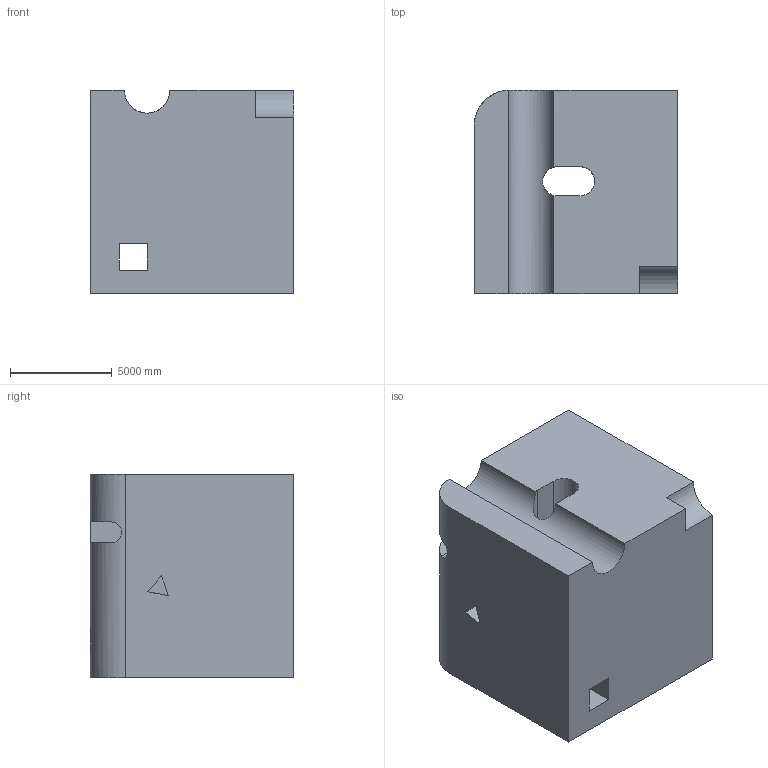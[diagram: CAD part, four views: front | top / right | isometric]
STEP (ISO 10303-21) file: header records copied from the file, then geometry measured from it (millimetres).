
FILE_DESCRIPTION (( 'STEP AP203' ), '1' );
FILE_NAME ('1849.STEP', '2022-08-19T13:30:56', ( 'user' ), ( '' ), 'SwSTEP 2.0', 'SolidWorks 2021', '' );
FILE_SCHEMA (( 'CONFIG_CONTROL_DESIGN' ));
Length unit declared in the file: centimetre
Products named in the file (1): 1849
Bounding box: 10000 x 10000 x 10000 mm (x, y, z)
Volume: 882204567216.3 mm3; surface area: 812949024.3 mm2
Topology: 1 solids, 1 shells, 42 faces, 120 edges, 80 vertices
Faces by surface type: plane 31, cylinder 11
Entity records: 1737 total; most frequent: CARTESIAN_POINT 539, ORIENTED_EDGE 240, DIRECTION 225, EDGE_CURVE 120, LINE 87, VECTOR 87, VERTEX_POINT 80, AXIS2_PLACEMENT_3D 69
